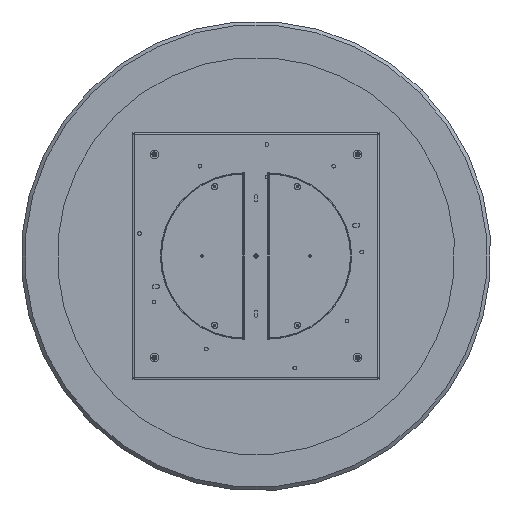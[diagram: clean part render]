
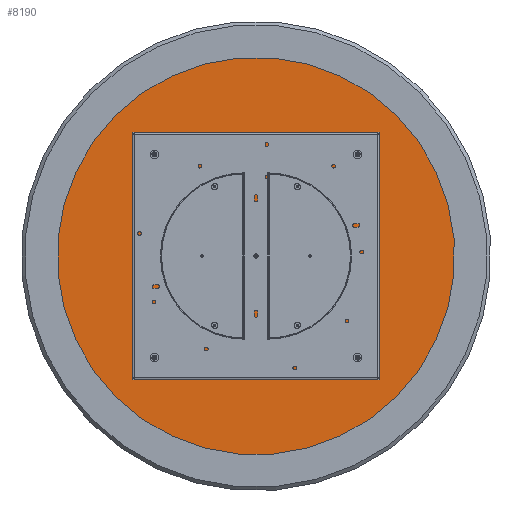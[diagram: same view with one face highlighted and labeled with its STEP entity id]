
A CAD part, front view. The second image highlights one B-rep face of the part: STEP entity #8190.
In plain terms, the highlighted planar face has unit normal (0, -1, 0).
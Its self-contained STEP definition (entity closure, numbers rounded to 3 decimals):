
#44 = CARTESIAN_POINT ( 'NONE',  ( 0., 0., -6.3 ) ) ;
#220 = CIRCLE ( 'NONE', #4370, 3.4 ) ;
#241 = CARTESIAN_POINT ( 'NONE',  ( -397.5, 0., 0. ) ) ;
#253 = CARTESIAN_POINT ( 'NONE',  ( 397.5, 0., -3.4 ) ) ;
#288 = CARTESIAN_POINT ( 'NONE',  ( 0., 0., 0. ) ) ;
#590 = EDGE_LOOP ( 'NONE', ( #13679, #8613 ) ) ;
#678 = DIRECTION ( 'NONE',  ( 0., 0., -1. ) ) ;
#773 = DIRECTION ( 'NONE',  ( 0., -1., 0. ) ) ;
#917 = AXIS2_PLACEMENT_3D ( 'NONE', #1013, #4819, #678 ) ;
#922 = DIRECTION ( 'NONE',  ( 0., 0., 1. ) ) ;
#970 = EDGE_CURVE ( 'NONE', #16757, #2904, #7106, .T. ) ;
#1013 = CARTESIAN_POINT ( 'NONE',  ( 0., 0., -397.5 ) ) ;
#1428 = AXIS2_PLACEMENT_3D ( 'NONE', #6749, #5193, #12296 ) ;
#1527 = DIRECTION ( 'NONE',  ( 0., -1., 0. ) ) ;
#1540 = CARTESIAN_POINT ( 'NONE',  ( 397.5, 0., 3.4 ) ) ;
#2269 = EDGE_CURVE ( 'NONE', #9782, #7611, #3349, .T. ) ;
#2310 = AXIS2_PLACEMENT_3D ( 'NONE', #9142, #14352, #7757 ) ;
#2334 = EDGE_LOOP ( 'NONE', ( #2873, #5464 ) ) ;
#2414 = DIRECTION ( 'NONE',  ( 0., -1., 0. ) ) ;
#2873 = ORIENTED_EDGE ( 'NONE', *, *, #12788, .F. ) ;
#2904 = VERTEX_POINT ( 'NONE', #11238 ) ;
#3163 = CARTESIAN_POINT ( 'NONE',  ( 0., 0., 397.5 ) ) ;
#3332 = CARTESIAN_POINT ( 'NONE',  ( -397.5, 0., 3.4 ) ) ;
#3349 = CIRCLE ( 'NONE', #1428, 550. ) ;
#3809 = AXIS2_PLACEMENT_3D ( 'NONE', #11663, #14267, #922 ) ;
#4079 = CIRCLE ( 'NONE', #12375, 6.3 ) ;
#4211 = EDGE_CURVE ( 'NONE', #15002, #4923, #13947, .T. ) ;
#4267 = DIRECTION ( 'NONE',  ( 0., 0., -1. ) ) ;
#4370 = AXIS2_PLACEMENT_3D ( 'NONE', #17102, #1527, #14437 ) ;
#4395 = CIRCLE ( 'NONE', #8533, 3.4 ) ;
#4440 = CARTESIAN_POINT ( 'NONE',  ( 0., 0., -394.1 ) ) ;
#4462 = DIRECTION ( 'NONE',  ( 0., 0., -1. ) ) ;
#4499 = DIRECTION ( 'NONE',  ( 0., 0., 1. ) ) ;
#4784 = EDGE_LOOP ( 'NONE', ( #13051, #10630 ) ) ;
#4819 = DIRECTION ( 'NONE',  ( 0., -1., 0. ) ) ;
#4844 = AXIS2_PLACEMENT_3D ( 'NONE', #3163, #9742, #9829 ) ;
#4901 = EDGE_LOOP ( 'NONE', ( #10903, #7226 ) ) ;
#4923 = VERTEX_POINT ( 'NONE', #3332 ) ;
#5193 = DIRECTION ( 'NONE',  ( 0., 1., 0. ) ) ;
#5390 = VERTEX_POINT ( 'NONE', #1540 ) ;
#5422 = AXIS2_PLACEMENT_3D ( 'NONE', #9851, #13591, #12290 ) ;
#5464 = ORIENTED_EDGE ( 'NONE', *, *, #2269, .F. ) ;
#5740 = EDGE_CURVE ( 'NONE', #14950, #9790, #11709, .T. ) ;
#5864 = EDGE_CURVE ( 'NONE', #5390, #8541, #9771, .T. ) ;
#6003 = CARTESIAN_POINT ( 'NONE',  ( 0., 0., 550. ) ) ;
#6055 = CARTESIAN_POINT ( 'NONE',  ( 0., 0., 0. ) ) ;
#6066 = FACE_BOUND ( 'NONE', #4901, .T. ) ;
#6544 = CARTESIAN_POINT ( 'NONE',  ( 0., 0., -550. ) ) ;
#6582 = EDGE_LOOP ( 'NONE', ( #15458, #7569 ) ) ;
#6662 = VERTEX_POINT ( 'NONE', #8851 ) ;
#6749 = CARTESIAN_POINT ( 'NONE',  ( 0., 0., 0. ) ) ;
#7106 = CIRCLE ( 'NONE', #16784, 6.3 ) ;
#7226 = ORIENTED_EDGE ( 'NONE', *, *, #13013, .F. ) ;
#7271 = FACE_BOUND ( 'NONE', #15048, .T. ) ;
#7569 = ORIENTED_EDGE ( 'NONE', *, *, #5864, .F. ) ;
#7611 = VERTEX_POINT ( 'NONE', #6544 ) ;
#7757 = DIRECTION ( 'NONE',  ( 0., 0., -1. ) ) ;
#8190 = ADVANCED_FACE ( 'NONE', ( #7271, #6066, #13782, #8654, #15251, #11096 ), #11009, .F. ) ;
#8274 = DIRECTION ( 'NONE',  ( 0., -1., 0. ) ) ;
#8533 = AXIS2_PLACEMENT_3D ( 'NONE', #12888, #2414, #12801 ) ;
#8541 = VERTEX_POINT ( 'NONE', #253 ) ;
#8613 = ORIENTED_EDGE ( 'NONE', *, *, #5740, .F. ) ;
#8654 = FACE_BOUND ( 'NONE', #6582, .T. ) ;
#8851 = CARTESIAN_POINT ( 'NONE',  ( 0., 0., 394.1 ) ) ;
#9142 = CARTESIAN_POINT ( 'NONE',  ( 397.5, 0., 0. ) ) ;
#9170 = EDGE_CURVE ( 'NONE', #13343, #6662, #12864, .T. ) ;
#9191 = EDGE_CURVE ( 'NONE', #6662, #13343, #13136, .T. ) ;
#9267 = AXIS2_PLACEMENT_3D ( 'NONE', #9576, #8274, #4462 ) ;
#9576 = CARTESIAN_POINT ( 'NONE',  ( 0., 0., 397.5 ) ) ;
#9742 = DIRECTION ( 'NONE',  ( 0., -1., 0. ) ) ;
#9771 = CIRCLE ( 'NONE', #2310, 3.4 ) ;
#9782 = VERTEX_POINT ( 'NONE', #6003 ) ;
#9783 = AXIS2_PLACEMENT_3D ( 'NONE', #241, #13580, #12196 ) ;
#9790 = VERTEX_POINT ( 'NONE', #12895 ) ;
#9829 = DIRECTION ( 'NONE',  ( 0., 0., -1. ) ) ;
#9851 = CARTESIAN_POINT ( 'NONE',  ( 0., 0., -397.5 ) ) ;
#10128 = EDGE_CURVE ( 'NONE', #9790, #14950, #13447, .T. ) ;
#10630 = ORIENTED_EDGE ( 'NONE', *, *, #9170, .F. ) ;
#10632 = AXIS2_PLACEMENT_3D ( 'NONE', #16368, #12643, #4499 ) ;
#10851 = DIRECTION ( 'NONE',  ( 0., -1., 0. ) ) ;
#10857 = CARTESIAN_POINT ( 'NONE',  ( -397.5, 0., -3.4 ) ) ;
#10903 = ORIENTED_EDGE ( 'NONE', *, *, #4211, .F. ) ;
#10976 = EDGE_CURVE ( 'NONE', #2904, #16757, #4079, .T. ) ;
#11009 = PLANE ( 'NONE',  #10632 ) ;
#11096 = FACE_OUTER_BOUND ( 'NONE', #2334, .T. ) ;
#11238 = CARTESIAN_POINT ( 'NONE',  ( 0., 0., 6.3 ) ) ;
#11663 = CARTESIAN_POINT ( 'NONE',  ( 0., 0., 0. ) ) ;
#11709 = CIRCLE ( 'NONE', #917, 3.4 ) ;
#12196 = DIRECTION ( 'NONE',  ( 0., 0., -1. ) ) ;
#12290 = DIRECTION ( 'NONE',  ( 0., 0., -1. ) ) ;
#12296 = DIRECTION ( 'NONE',  ( 0., 0., 1. ) ) ;
#12375 = AXIS2_PLACEMENT_3D ( 'NONE', #6055, #773, #16943 ) ;
#12386 = CIRCLE ( 'NONE', #3809, 550. ) ;
#12643 = DIRECTION ( 'NONE',  ( 0., 1., 0. ) ) ;
#12788 = EDGE_CURVE ( 'NONE', #7611, #9782, #12386, .T. ) ;
#12801 = DIRECTION ( 'NONE',  ( 0., 0., -1. ) ) ;
#12864 = CIRCLE ( 'NONE', #9267, 3.4 ) ;
#12888 = CARTESIAN_POINT ( 'NONE',  ( 397.5, 0., 0. ) ) ;
#12895 = CARTESIAN_POINT ( 'NONE',  ( 0., 0., -400.9 ) ) ;
#13013 = EDGE_CURVE ( 'NONE', #4923, #15002, #220, .T. ) ;
#13051 = ORIENTED_EDGE ( 'NONE', *, *, #9191, .F. ) ;
#13136 = CIRCLE ( 'NONE', #4844, 3.4 ) ;
#13343 = VERTEX_POINT ( 'NONE', #14584 ) ;
#13447 = CIRCLE ( 'NONE', #5422, 3.4 ) ;
#13580 = DIRECTION ( 'NONE',  ( 0., -1., 0. ) ) ;
#13591 = DIRECTION ( 'NONE',  ( 0., -1., 0. ) ) ;
#13642 = EDGE_CURVE ( 'NONE', #8541, #5390, #4395, .T. ) ;
#13679 = ORIENTED_EDGE ( 'NONE', *, *, #10128, .F. ) ;
#13782 = FACE_BOUND ( 'NONE', #4784, .T. ) ;
#13947 = CIRCLE ( 'NONE', #9783, 3.4 ) ;
#14267 = DIRECTION ( 'NONE',  ( 0., 1., 0. ) ) ;
#14352 = DIRECTION ( 'NONE',  ( 0., -1., 0. ) ) ;
#14437 = DIRECTION ( 'NONE',  ( 0., 0., -1. ) ) ;
#14584 = CARTESIAN_POINT ( 'NONE',  ( 0., 0., 400.9 ) ) ;
#14950 = VERTEX_POINT ( 'NONE', #4440 ) ;
#15002 = VERTEX_POINT ( 'NONE', #10857 ) ;
#15048 = EDGE_LOOP ( 'NONE', ( #16736, #16122 ) ) ;
#15251 = FACE_BOUND ( 'NONE', #590, .T. ) ;
#15458 = ORIENTED_EDGE ( 'NONE', *, *, #13642, .F. ) ;
#16122 = ORIENTED_EDGE ( 'NONE', *, *, #10976, .F. ) ;
#16368 = CARTESIAN_POINT ( 'NONE',  ( 0., 0., 0. ) ) ;
#16736 = ORIENTED_EDGE ( 'NONE', *, *, #970, .F. ) ;
#16757 = VERTEX_POINT ( 'NONE', #44 ) ;
#16784 = AXIS2_PLACEMENT_3D ( 'NONE', #288, #10851, #4267 ) ;
#16943 = DIRECTION ( 'NONE',  ( 0., 0., -1. ) ) ;
#17102 = CARTESIAN_POINT ( 'NONE',  ( -397.5, 0., 0. ) ) ;
